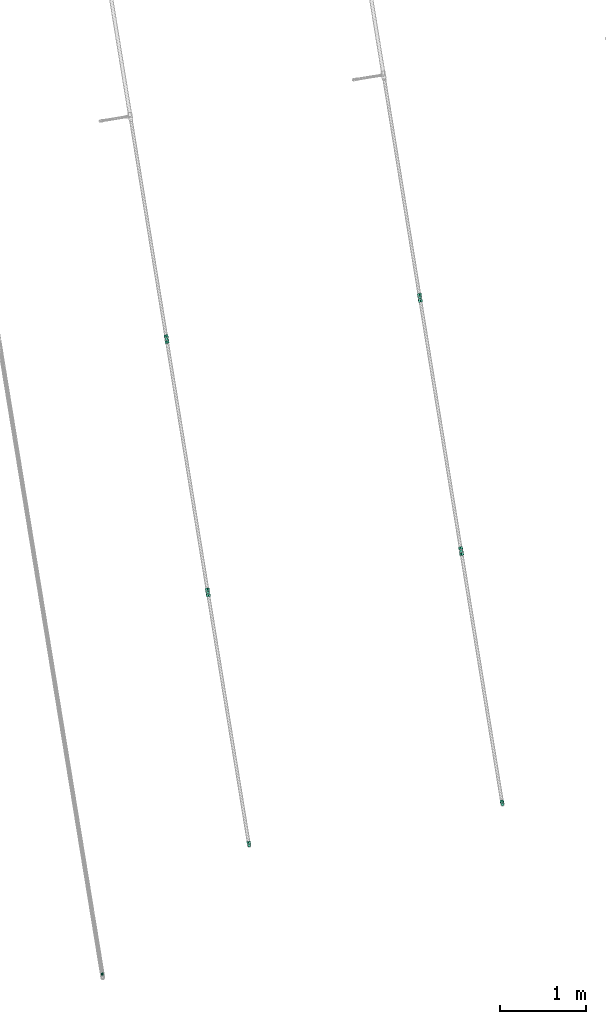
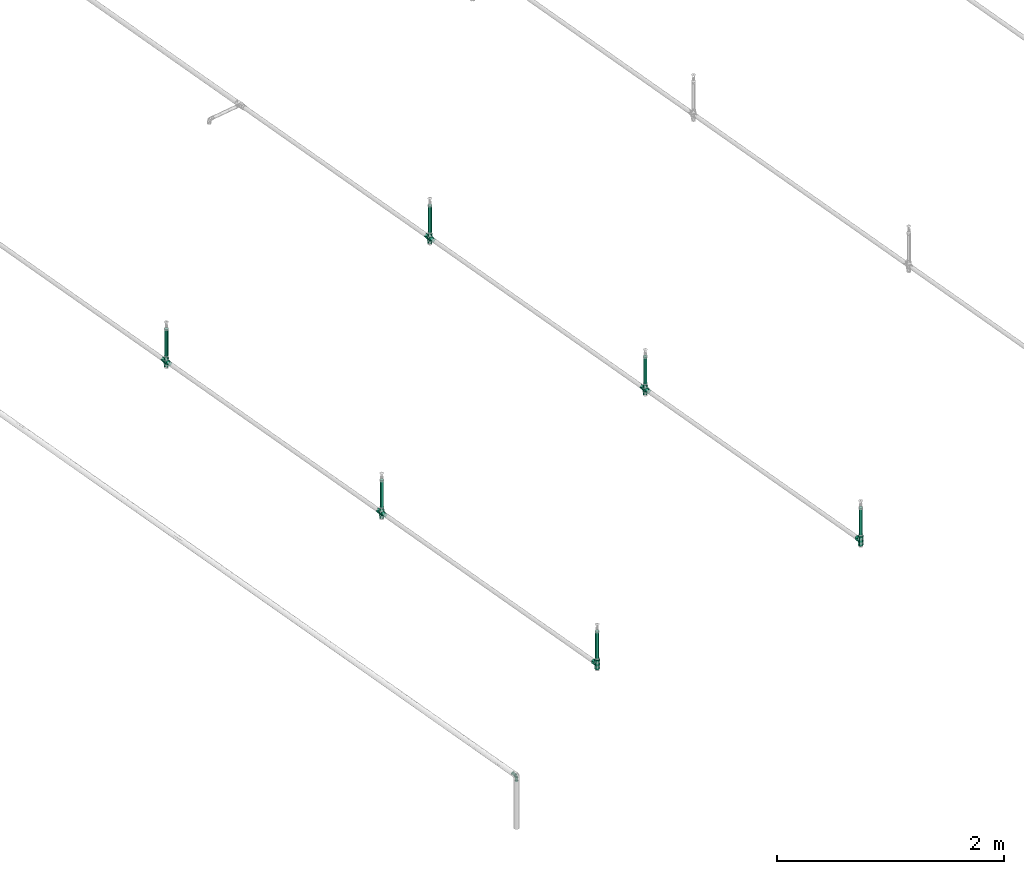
# One storey, part 19 of 56: 7 flow fittings, 6 flow segments.
"""IFC2X3 building model written with IfcOpenShell, lengths in millimetres."""

from ifc_helpers import new_model, entity, si_unit, converted_unit, derived_unit, direction, frame, origin, origin_with_axes, origin_2d_with_axis, place, context, subcontext, project, spatial, circle, extrude, faceted_brep, source, transform, mapped, material, type_object, element, save


model = new_model("IFC2X3")

# Units and contexts
model_context = context("Model", 3, precision=0.01, world=origin(), true_north=direction((6.12323399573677e-17, 1.0)))
plan_context = context("Plan", 3, precision=1e-05, world=origin_with_axes())
body_context = subcontext(model_context, "Body", "Model", "MODEL_VIEW")
ifc_project = project(units=[converted_unit("PLANEANGLEUNIT", "DEGREE", entity("IfcPositiveLengthMeasure", 0.0174532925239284), si_unit("PLANEANGLEUNIT", "RADIAN"), dimensions=[0, 0, 0, 0, 0, 0, 0]), si_unit("AREAUNIT", "SQUARE_METRE"), si_unit("LENGTHUNIT", "METRE", prefix="MILLI"), si_unit("MASSUNIT", "GRAM", prefix="KILO"), si_unit("POWERUNIT", "WATT"), si_unit("PRESSUREUNIT", "PASCAL", prefix="KILO"), si_unit("FORCEUNIT", "NEWTON", prefix="KILO"), si_unit("ELECTRICVOLTAGEUNIT", "VOLT"), si_unit("ELECTRICCURRENTUNIT", "AMPERE"), si_unit("THERMODYNAMICTEMPERATUREUNIT", "DEGREE_CELSIUS"), si_unit("TIMEUNIT", "SECOND"), si_unit("VOLUMEUNIT", "CUBIC_METRE"), derived_unit("LINEARVELOCITYUNIT", [(si_unit("LENGTHUNIT", "METRE"), 1), (si_unit("TIMEUNIT", "SECOND"), -1)]), derived_unit("VOLUMETRICFLOWRATEUNIT", [(si_unit("VOLUMEUNIT", "CUBIC_METRE"), 1), (si_unit("TIMEUNIT", "SECOND"), -1)]), derived_unit("THERMALTRANSMITTANCEUNIT", [(si_unit("POWERUNIT", "WATT"), 1), (si_unit("THERMODYNAMICTEMPERATUREUNIT", "KELVIN"), -1), (si_unit("AREAUNIT", "SQUARE_METRE"), -1)]), derived_unit("SOUNDPRESSUREUNIT", [(si_unit("PRESSUREUNIT", "PASCAL"), 1)])], contexts=[model_context, plan_context])

# Site, building, storey
site_placement = place(None, frame((-3.09682673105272e-06, 1.93776733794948e-05, 0.0), z_axis=(0.0, 0.0, 1.0), x_axis=(-0.160806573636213, 0.986985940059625, 0.0)))
site = spatial("IfcSite", under=ifc_project, at=site_placement, Name="Default", CompositionType="ELEMENT")
building_placement = place(site_placement, frame((0.0, 0.0, 0.0), z_axis=(0.0, 0.0, 1.0), x_axis=(1.0, -2.77555756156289e-17, 0.0)))
building = spatial("IfcBuilding", under=site, at=building_placement, Name="Bygning (endres i Project Information)", CompositionType="ELEMENT")
storey_placement = place(building_placement, frame((0.0, 0.0, 51360.0000000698), z_axis=(0.0, 0.0, 1.0), x_axis=(1.0, -2.77555756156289e-17, 0.0)))
storey = spatial("IfcBuildingStorey", under=building, at=storey_placement, Name="H01-Nivå D+0,36", CompositionType="ELEMENT", Elevation=51360.0000000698)

# Flow fittings
ifc_material_1 = material(Name="3320.001")
pipe_fitting_type_1 = type_object("IfcPipeFittingType", Name="RS_53_PIF_UN_Tee-Reduced-EN10241_MC_gen:RS_53_PIF_UN_Tee-Reduced-EN10241_MC_gen", PredefinedType="NOTDEFINED", material=ifc_material_1)
shared_shape_1 = source(origin(), body_context, "Body", "Brep", [
    faceted_brep([(51.0, 24.4999999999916, 0.0), (51.0, 19.5447235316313, 8.58279060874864), (51.0, 12.2499999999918, 21.2176223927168), (51.0, 0.0, 21.2176223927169), (51.0, -12.2500000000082, 21.217622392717), (51.0, -18.3750000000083, 10.6088111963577), (51.0, -24.5000000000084, 0.0), (51.0, -21.4375000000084, -5.30440559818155), (51.0, -18.3750000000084, -10.6088111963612), (51.0, -12.2500000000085, -21.2176223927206), (51.0, 0.0, -21.2176223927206), (51.0, 12.2499999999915, -21.2176223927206), (51.0, 18.3749999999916, -10.6088111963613), (-51.0, -12.2500000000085, -21.2176223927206), (-51.0, -18.3750000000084, -10.6088111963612), (-51.0, -24.5000000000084, 0.0), (-51.0, -21.4375000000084, 5.30440559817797), (-51.0, -18.3750000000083, 10.6088111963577), (-51.0, -12.2500000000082, 21.217622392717), (-51.0, 0.0, 21.2176223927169), (-51.0, 12.2499999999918, 21.2176223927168), (-51.0, 18.3749999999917, 10.6088111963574), (-51.0, 24.4999999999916, 0.0), (-51.0, 18.3749999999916, -10.6088111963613), (-51.0, 12.2499999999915, -21.2176223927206), (-51.0, 0.0, -21.2176223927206), (-19.8526742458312, -19.8526742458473, 8.75676527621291), (-19.115895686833, -19.115895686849, 10.1450468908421), (-13.7317913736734, -13.7317913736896, 20.2900937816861), (21.1391731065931, -21.1391731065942, 8.42882562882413), (24.5000000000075, -24.5000000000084, 0.0), (0.0, 0.0, 24.4999999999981), (17.7783462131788, -17.7783462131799, 16.85765125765), (-24.4999999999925, -24.5000000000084, 0.0), (-21.1391731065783, -21.1391731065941, -8.42882562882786), (-17.7783462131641, -17.7783462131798, -16.8576512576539), (0.0, 0.0, -24.5000000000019), (19.8526741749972, -19.852674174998, -8.75676540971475), (13.7317913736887, -13.7317913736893, -20.2900937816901), (19.1158956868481, -19.1158956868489, -10.1450468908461), (12.2500000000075, -51.0, 21.2176223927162), (0.0, -51.0, 21.2176223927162), (-12.2499999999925, -51.0, 21.2176223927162), (-19.5447234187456, -51.0, 8.58279080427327), (-24.4999999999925, -51.0, 0.0), (-18.3749999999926, -51.0, -10.6088111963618), (-12.2499999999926, -51.0, -21.2176223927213), (0.0, -51.0, -21.2176223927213), (12.2500000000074, -51.0, -21.2176223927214), (19.5447242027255, -51.0, -8.58278944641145), (24.5000000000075, -51.0, 0.0), (18.3750000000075, -51.0, 10.6088111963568)], [[[0, 1, 2, 3, 4, 5, 6, 7, 8, 9, 10, 11, 12]], [[13, 14, 15, 16, 17, 18, 19, 20, 21, 22, 23, 24, 25]], [[2, 1, 0, 22, 21, 20]], [[17, 26, 27, 28]], [[6, 29, 30]], [[2, 20, 31]], [[5, 32, 29]], [[3, 2, 31, 4]], [[26, 17, 16]], [[19, 18, 28]], [[33, 16, 15]], [[28, 18, 17]], [[32, 4, 31]], [[5, 29, 6]], [[33, 26, 16]], [[31, 20, 19]], [[32, 5, 4]], [[28, 31, 19]], [[34, 15, 14]], [[35, 14, 13]], [[36, 13, 25, 24]], [[37, 8, 7]], [[9, 8, 38]], [[14, 35, 34]], [[15, 34, 33]], [[6, 30, 7]], [[13, 36, 35]], [[8, 37, 39, 38]], [[0, 12, 11, 24, 23, 22]], [[38, 10, 9]], [[38, 36, 10]], [[11, 36, 24]], [[30, 37, 7]], [[36, 11, 10]], [[40, 41, 42, 43, 44, 45, 46, 47, 48, 49, 50, 51]], [[45, 33, 34, 35]], [[49, 39, 37, 30]], [[35, 46, 45]], [[33, 45, 44]], [[38, 47, 36]], [[48, 47, 38]], [[48, 39, 49]], [[30, 50, 49]], [[39, 48, 38]], [[47, 46, 36]], [[36, 46, 35]], [[51, 30, 29, 32]], [[32, 40, 51]], [[31, 40, 32]], [[30, 51, 50]], [[28, 41, 31]], [[42, 41, 28]], [[42, 27, 43]], [[42, 28, 27]], [[43, 27, 26, 33]], [[33, 44, 43]], [[41, 40, 31]]]),
])
for number, where, z_axis, x_axis in (
    (1, (994236.263254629, -389286.663841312, 3370.0), (-2.77555756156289e-17, -1.0, 0.0), (0.0, 0.0, 1.0)),
    (2, (994236.263254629, -386286.663841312, 3370.0), (-2.77555756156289e-17, -1.0, 0.0), (0.0, 0.0, 1.0)),
):
    element("IfcFlowFitting", number, at=place(storey_placement, frame(where, z_axis=z_axis, x_axis=x_axis)), inside=storey, type_object=pipe_fitting_type_1, material=ifc_material_1, Name="RS_53_PIF_UN_Tee-Reduced-EN10241_MC_gen:RS_53_PIF_UN_Tee-Reduced-EN10241_MC_gen", ObjectType="RS_53_PIF_UN_Tee-Reduced-EN10241_MC_gen:RS_53_PIF_UN_Tee-Reduced-EN10241_MC_gen", context=body_context, shape_type="MappedRepresentation", body=[
        mapped(shared_shape_1, transform((0.0, 0.0, 0.0), scale=1.0)),
    ])
pipe_fitting_type_2 = type_object("IfcPipeFittingType", Name="RS_53_PIF_UN_Cross-EN10241_MC_gen:RS_53_PIF_UN_Cross-EN10241_MC_gen", PredefinedType="NOTDEFINED", material=ifc_material_1)
shared_shape_2 = source(origin(), body_context, "Body", "Brep", [
    faceted_brep([(51.0, -12.2500000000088, 12.2499999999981), (51.0, 0.0, 24.4999999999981), (15.8118687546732, -15.8118687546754, 18.7145613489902), (20.1559343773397, -20.155934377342, 9.35728067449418), (24.5000000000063, -24.5000000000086, 0.0), (51.0, -19.2143724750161, 5.28562752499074), (0.0, 0.0, 24.4999999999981), (-15.8118687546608, -15.8118687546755, 18.7145613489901), (-51.0, 0.0, 24.4999999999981), (51.0, -24.5000000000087, 0.0), (-24.4999999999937, -24.5000000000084, 0.0), (-51.0, -18.3750000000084, 6.12499999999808), (-51.0, -24.5000000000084, 0.0), (24.5000000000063, 24.4999999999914, 0.0), (51.0, 18.3749999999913, 6.12499999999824), (51.0, 24.4999999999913, 0.0), (-24.4999999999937, 24.4999999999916, 0.0), (-51.0, 24.4999999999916, 0.0), (-51.0, 19.2143723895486, 5.28562761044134), (20.1559343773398, 20.1559343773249, 9.35728067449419), (15.8118687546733, 15.8118687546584, 18.7145613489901), (51.0, 12.2499999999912, 12.2499999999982), (-15.8118687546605, 15.8118687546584, 18.7145613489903), (51.0, 12.2499999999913, -12.2500000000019), (51.0, 0.0, -24.5000000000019), (15.8118687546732, 15.8118687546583, -18.714561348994), (51.0, 19.2143723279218, -5.28562767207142), (-51.0, 18.3749999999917, -6.12500000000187), (20.1559343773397, 20.1559343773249, -9.35728067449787), (0.0, 0.0, -24.5000000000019), (-15.8118687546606, 15.8118687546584, -18.7145613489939), (-51.0, 0.0, -24.5000000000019), (51.0, -18.3750000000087, -6.12500000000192), (15.8118687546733, -15.8118687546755, -18.7145613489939), (51.0, -12.2500000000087, -12.2500000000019), (20.1559343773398, -20.1559343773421, -9.35728067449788), (-12.2499999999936, -51.0, -12.2500000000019), (0.0, -51.0, -24.5000000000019), (12.2500000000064, -51.0, -12.2500000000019), (19.2143723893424, -51.0, -5.28562761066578), (24.5000000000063, -51.0, 0.0), (18.3750000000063, -51.0, 6.12499999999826), (12.2500000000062, -51.0, 12.2499999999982), (0.0, -51.0, 24.4999999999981), (-12.2499999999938, -51.0, 12.2499999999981), (-19.2143725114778, -51.0, 5.28562748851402), (-24.4999999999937, -51.0, 0.0), (-20.1559343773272, -20.155934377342, 9.35728067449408), (0.0, 51.0, 24.4999999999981), (-18.3749999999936, 51.0, 6.12499999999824), (-24.4999999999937, 51.0, 0.0), (24.5000000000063, 51.0, 0.0), (19.2143725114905, 51.0, 5.28562748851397), (18.3750000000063, 51.0, -6.12500000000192), (0.0, 51.0, -24.5000000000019), (-19.1158956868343, -19.115895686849, -10.1450468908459), (-13.7317913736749, -13.7317913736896, -20.2900937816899), (12.2500000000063, 51.0, -12.2500000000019), (-12.2499999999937, 51.0, -12.2500000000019), (-19.2143723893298, 51.0, -5.28562761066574), (-12.2499999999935, 51.0, 12.2499999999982), (12.2500000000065, 51.0, 12.2499999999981), (-20.1559343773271, 20.155934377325, 9.35728067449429), (-20.1559343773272, 20.155934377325, -9.35728067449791), (-51.0, -12.2500000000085, 12.2499999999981), (-51.0, 12.2499999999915, 12.2499999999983), (-51.0, 12.2499999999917, -12.2500000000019), (-51.0, -12.2500000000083, -12.2500000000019)], [[[0, 1, 2]], [[3, 4, 5]], [[2, 3, 0]], [[1, 6, 2]], [[7, 6, 8]], [[4, 9, 5]], [[10, 11, 12]], [[13, 14, 15]], [[16, 17, 18]], [[19, 20, 21]], [[20, 1, 21]], [[6, 1, 20]], [[22, 8, 6]], [[14, 13, 19]], [[19, 21, 14]], [[0, 3, 5]], [[23, 24, 25]], [[13, 15, 26]], [[16, 27, 17]], [[28, 13, 26]], [[25, 28, 23]], [[24, 29, 25]], [[30, 29, 31]], [[23, 28, 26]], [[4, 32, 9]], [[33, 24, 34]], [[29, 24, 33]], [[35, 33, 34]], [[35, 34, 32]], [[32, 4, 35]], [[36, 37, 38, 39, 40, 41, 42, 43, 44, 45, 46]], [[44, 43, 7]], [[47, 10, 45]], [[7, 47, 44]], [[43, 6, 7]], [[6, 48, 22]], [[10, 46, 45]], [[16, 49, 50]], [[4, 41, 40]], [[13, 51, 52]], [[3, 2, 42]], [[2, 43, 42]], [[6, 43, 2]], [[48, 6, 20]], [[41, 4, 3]], [[3, 42, 41]], [[44, 47, 45]], [[38, 37, 33]], [[4, 40, 39]], [[13, 53, 51]], [[35, 4, 39]], [[33, 35, 38]], [[37, 29, 33]], [[29, 54, 25]], [[38, 35, 39]], [[46, 55, 36]], [[56, 37, 36]], [[29, 37, 56]], [[55, 56, 36]], [[55, 46, 10]], [[53, 57, 54, 58, 59, 50, 49, 60, 48, 61, 52, 51]], [[61, 48, 20]], [[19, 13, 52]], [[20, 19, 61]], [[62, 22, 60]], [[22, 48, 60]], [[49, 16, 62]], [[62, 60, 49]], [[61, 19, 52]], [[58, 54, 30]], [[16, 50, 59]], [[63, 16, 59]], [[30, 63, 58]], [[54, 29, 30]], [[58, 63, 59]], [[25, 54, 57]], [[28, 25, 57]], [[28, 57, 53]], [[53, 13, 28]], [[12, 11, 64, 8, 65, 18, 17, 27, 66, 31, 67]], [[32, 34, 24, 23, 26, 15, 14, 21, 1, 0, 5, 9]], [[47, 64, 11]], [[7, 8, 64]], [[11, 10, 47]], [[22, 62, 65]], [[62, 16, 18]], [[65, 8, 22]], [[65, 62, 18]], [[47, 7, 64]], [[63, 66, 27]], [[27, 16, 63]], [[63, 30, 66]], [[67, 55, 12]], [[30, 31, 66]], [[55, 10, 12]], [[67, 31, 56]], [[56, 31, 29]], [[67, 56, 55]]]),
])
for number, where, z_axis, x_axis in (
    (3, (997236.263254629, -389286.663841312, 3370.0), (-2.77555756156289e-17, -1.0, 0.0), (0.0, 0.0, 1.0)),
    (4, (1000236.26325463, -389286.663841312, 3370.0), (-2.77555756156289e-17, -1.0, 0.0), (0.0, 0.0, 1.0)),
    (5, (997236.263254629, -386286.663841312, 3370.0), (-2.77555756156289e-17, -1.0, 0.0), (0.0, 0.0, 1.0)),
    (6, (1000236.26325463, -386286.663841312, 3370.0), (-2.77555756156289e-17, -1.0, 0.0), (0.0, 0.0, 1.0)),
):
    element("IfcFlowFitting", number, at=place(storey_placement, frame(where, z_axis=z_axis, x_axis=x_axis)), inside=storey, type_object=pipe_fitting_type_2, material=ifc_material_1, Name="RS_53_PIF_UN_Cross-EN10241_MC_gen:RS_53_PIF_UN_Cross-EN10241_MC_gen", ObjectType="RS_53_PIF_UN_Cross-EN10241_MC_gen:RS_53_PIF_UN_Cross-EN10241_MC_gen", context=body_context, shape_type="MappedRepresentation", body=[
        mapped(shared_shape_2, transform((0.0, 0.0, 0.0), scale=1.0)),
    ])
ifc_material_2 = material(Name="3103.001 KV")
pipe_fitting_type_3 = type_object("IfcPipeFittingType", Name="RS_53_PF_UN_Bend-Mapress-Cu-In_gen_MC:Mapress Bend", PredefinedType="NOTDEFINED", material=ifc_material_2)
shared_shape_3 = source(origin(), body_context, "Body", "Brep", [
    faceted_brep([(4.01169519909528, 34.0, -14.9718503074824), (13.423393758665, 34.0, -7.7500000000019), (15.5000000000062, 34.0, 0.0), (13.4233937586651, 34.0, 7.74999999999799), (4.01169519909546, 34.0, 14.9718503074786), (-4.01169519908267, 34.0, 14.9718503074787), (-13.4233937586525, 34.0, 7.74999999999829), (-15.4999999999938, 34.0, 0.0), (-13.4233937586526, 34.0, -7.75000000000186), (-4.01169519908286, 34.0, -14.9718503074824), (-4.01169519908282, 57.0, -14.9718503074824), (-13.4233937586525, 57.0, -7.75000000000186), (-15.4999999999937, 57.0, 0.0), (-13.4233937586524, 57.0, 7.74999999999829), (-4.01169519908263, 57.0, 14.9718503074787), (4.0116951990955, 57.0, 14.9718503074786), (13.4233937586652, 57.0, 7.74999999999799), (15.5000000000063, 57.0, 0.0), (13.4233937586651, 57.0, -7.7500000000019), (4.01169519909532, 57.0, -14.9718503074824)], [[[0, 1, 2, 3, 4, 5, 6, 7, 8, 9]], [[10, 11, 12, 13, 14, 15, 16, 17, 18, 19]], [[2, 17, 16, 3]], [[3, 16, 15, 4]], [[15, 14, 5, 4]], [[5, 14, 13, 6]], [[6, 13, 12, 7]], [[7, 12, 11, 8]], [[8, 11, 10, 9]], [[10, 19, 0, 9]], [[0, 19, 18, 1]], [[1, 18, 17, 2]]]),
    faceted_brep([(-57.0, -13.4233937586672, 7.74999999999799), (-57.0, -4.0116951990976, 14.9718503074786), (-57.0, 4.01169519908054, 14.9718503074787), (-57.0, 13.4233937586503, 7.74999999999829), (-57.0, 15.4999999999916, 0.0), (-57.0, 13.4233937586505, -7.75000000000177), (-57.0, 4.01169519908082, -14.9718503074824), (-57.0, -4.01169519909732, -14.9718503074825), (-57.0, -13.4233937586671, -7.75000000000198), (-57.0, -15.5000000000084, 0.0), (-34.0, 4.01169519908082, -14.9718503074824), (-34.0, 13.4233937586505, -7.75000000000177), (-34.0, 15.4999999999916, 0.0), (-34.0, 13.4233937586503, 7.74999999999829), (-34.0, 4.01169519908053, 14.9718503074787), (-34.0, -4.0116951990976, 14.9718503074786), (-34.0, -13.4233937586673, 7.74999999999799), (-34.0, -15.5000000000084, 0.0), (-34.0, -13.4233937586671, -7.75000000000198), (-34.0, -4.01169519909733, -14.9718503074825)], [[[0, 1, 2, 3, 4, 5, 6, 7, 8, 9]], [[10, 11, 12, 13, 14, 15, 16, 17, 18, 19]], [[9, 17, 16, 0]], [[0, 16, 15, 1]], [[15, 14, 2, 1]], [[2, 14, 13, 3]], [[3, 13, 12, 4]], [[4, 12, 11, 5]], [[5, 11, 10, 6]], [[10, 19, 7, 6]], [[7, 19, 18, 8]], [[8, 18, 17, 9]]]),
    faceted_brep([(-10.0, -7.56921938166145, 0.0), (-12.0502525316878, -4.01807782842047, 9.89949493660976), (-34.0, -9.8994949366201, 9.89949493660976), (-34.0, -14.0, 0.0), (-17.0, 4.55513627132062, 14.0), (-34.0, 0.0, 14.0), (-21.9497474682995, 13.1283503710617, 9.89949493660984), (-34.0, 9.89949493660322, 9.89949493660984), (-24.0, 16.6794919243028, 0.0), (-34.0, 14.0, 0.0), (-21.9497474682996, 13.1283503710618, -9.89949493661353), (-34.0, 9.89949493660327, -9.89949493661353), (-17.0, 4.55513627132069, -14.0), (-34.0, 0.0, -14.0), (-12.0502525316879, -4.01807782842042, -9.89949493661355), (-34.0, -9.89949493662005, -9.89949493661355), (7.56921938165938, 10.0, 0.0), (4.01807782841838, 12.0502525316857, 9.89949493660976), (-4.55513627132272, 17.0, 14.0), (-13.1283503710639, 21.9497474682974, 9.89949493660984), (-16.6794919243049, 24.0, 0.0), (-13.1283503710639, 21.9497474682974, -9.89949493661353), (-4.5551362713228, 17.0, -14.0), (4.01807782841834, 12.0502525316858, -9.89949493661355), (14.0, 34.0, 0.0), (9.89949493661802, 34.0, 9.89949493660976), (0.0, 34.0, 14.0), (-9.8994949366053, 34.0, 9.89949493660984), (-14.0, 34.0, 0.0), (-9.89949493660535, 34.0, -9.89949493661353), (0.0, 34.0, -14.0), (9.89949493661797, 34.0, -9.89949493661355)], [[[0, 1, 2, 3]], [[1, 4, 5, 2]], [[4, 6, 7, 5]], [[6, 8, 9, 7]], [[8, 10, 11, 9]], [[10, 12, 13, 11]], [[12, 14, 15, 13]], [[14, 0, 3, 15]], [[16, 17, 1, 0]], [[17, 18, 4, 1]], [[18, 19, 6, 4]], [[19, 20, 8, 6]], [[20, 21, 10, 8]], [[21, 22, 12, 10]], [[22, 23, 14, 12]], [[23, 16, 0, 14]], [[24, 25, 17, 16]], [[25, 26, 18, 17]], [[26, 27, 19, 18]], [[27, 28, 20, 19]], [[28, 29, 21, 20]], [[29, 30, 22, 21]], [[30, 31, 23, 22]], [[31, 24, 16, 23]], [[3, 2, 5, 7, 9, 11, 13, 15]], [[31, 30, 29, 28, 27, 26, 25, 24]]]),
])
flow_fitting_placement = place(storey_placement, frame((992989.111795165, -384350.157958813, 3700.0), z_axis=(-2.77555756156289e-17, -1.0, 0.0), x_axis=(-1.0, 2.77555756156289e-17, 0.0)))
element("IfcFlowFitting", 7, at=flow_fitting_placement, inside=storey, type_object=pipe_fitting_type_3, material=ifc_material_2, Name="RS_53_PF_UN_Bend-Mapress-Cu-In_gen_MC:Mapress Bend", ObjectType="RS_53_PF_UN_Bend-Mapress-Cu-In_gen_MC:Mapress Bend", context=body_context, shape_type="MappedRepresentation", body=[
    mapped(shared_shape_3, transform((0.0, 0.0, 0.0), scale=1.0)),
])

# Flow segments
pipe_segment_type = type_object("IfcPipeSegmentType", Name="Pipe Types:Stålrør sveist og gjenget", PredefinedType="NOTDEFINED", material=ifc_material_1)
flow_segment_1_placement = place(storey_placement, frame((0.0, 0.0, 0.0), z_axis=(0.0, 0.0, 1.0), x_axis=(1.0, -2.77555756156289e-17, 0.0)))
element("IfcFlowSegment", 8, at=flow_segment_1_placement, inside=storey, type_object=pipe_segment_type, Name="Pipe Types:Stålrør sveist og gjenget", ObjectType="Pipe Types:Stålrør sveist og gjenget", context=body_context, shape_type="SweptSolid", body=[
    extrude(circle(Radius=16.8500004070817, at=origin_2d_with_axis()), frame((994236.26325463, -389286.663841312, 3418.26666666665), z_axis=(0.0, 0.0, 1.0), x_axis=(-1.0, 0.0, 0.0)), (0.0, 0.0, 1.0), 306.733333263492),
])
flow_segment_2_placement = place(storey_placement, frame((0.0, 0.0, 0.0), z_axis=(0.0, 0.0, 1.0), x_axis=(1.0, -2.77555756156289e-17, 0.0)))
element("IfcFlowSegment", 9, at=flow_segment_2_placement, inside=storey, type_object=pipe_segment_type, Name="Pipe Types:Stålrør sveist og gjenget", ObjectType="Pipe Types:Stålrør sveist og gjenget", context=body_context, shape_type="SweptSolid", body=[
    extrude(circle(Radius=16.8500004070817, at=origin_2d_with_axis()), frame((997236.263254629, -389286.663841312, 3418.26666666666), z_axis=(0.0, 0.0, 1.0), x_axis=(-1.0, 0.0, 0.0)), (0.0, 0.0, 1.0), 306.733333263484),
])
flow_segment_3_placement = place(storey_placement, frame((0.0, 0.0, 0.0), z_axis=(0.0, 0.0, 1.0), x_axis=(1.0, -2.77555756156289e-17, 0.0)))
element("IfcFlowSegment", 10, at=flow_segment_3_placement, inside=storey, type_object=pipe_segment_type, Name="Pipe Types:Stålrør sveist og gjenget", ObjectType="Pipe Types:Stålrør sveist og gjenget", context=body_context, shape_type="SweptSolid", body=[
    extrude(circle(Radius=16.8500004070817, at=origin_2d_with_axis()), frame((1000236.26325463, -389286.663841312, 3418.26666666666), z_axis=(0.0, 0.0, 1.0), x_axis=(-1.0, 0.0, 0.0)), (0.0, 0.0, 1.0), 306.733333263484),
])
flow_segment_4_placement = place(storey_placement, frame((0.0, 0.0, 0.0), z_axis=(0.0, 0.0, 1.0), x_axis=(1.0, -2.77555756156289e-17, 0.0)))
element("IfcFlowSegment", 11, at=flow_segment_4_placement, inside=storey, type_object=pipe_segment_type, Name="Pipe Types:Stålrør sveist og gjenget", ObjectType="Pipe Types:Stålrør sveist og gjenget", context=body_context, shape_type="SweptSolid", body=[
    extrude(circle(Radius=16.8500004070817, at=origin_2d_with_axis()), frame((994236.26325463, -386286.663841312, 3418.26666666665), z_axis=(0.0, 0.0, 1.0), x_axis=(-1.0, 0.0, 0.0)), (0.0, 0.0, 1.0), 306.733333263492),
])
flow_segment_5_placement = place(storey_placement, frame((0.0, 0.0, 0.0), z_axis=(0.0, 0.0, 1.0), x_axis=(1.0, -2.77555756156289e-17, 0.0)))
element("IfcFlowSegment", 12, at=flow_segment_5_placement, inside=storey, type_object=pipe_segment_type, Name="Pipe Types:Stålrør sveist og gjenget", ObjectType="Pipe Types:Stålrør sveist og gjenget", context=body_context, shape_type="SweptSolid", body=[
    extrude(circle(Radius=16.8500004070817, at=origin_2d_with_axis()), frame((997236.263254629, -386286.663841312, 3418.26666666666), z_axis=(0.0, 0.0, 1.0), x_axis=(-1.0, 0.0, 0.0)), (0.0, 0.0, 1.0), 306.733333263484),
])
flow_segment_6_placement = place(storey_placement, frame((0.0, 0.0, 0.0), z_axis=(0.0, 0.0, 1.0), x_axis=(1.0, -2.77555756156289e-17, 0.0)))
element("IfcFlowSegment", 13, at=flow_segment_6_placement, inside=storey, type_object=pipe_segment_type, Name="Pipe Types:Stålrør sveist og gjenget", ObjectType="Pipe Types:Stålrør sveist og gjenget", context=body_context, shape_type="SweptSolid", body=[
    extrude(circle(Radius=16.8500004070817, at=origin_2d_with_axis()), frame((1000236.26325463, -386286.663841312, 3418.26666666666), z_axis=(0.0, 0.0, 1.0), x_axis=(-1.0, 0.0, 0.0)), (0.0, 0.0, 1.0), 306.733333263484),
])

save(model, "model.ifc")
